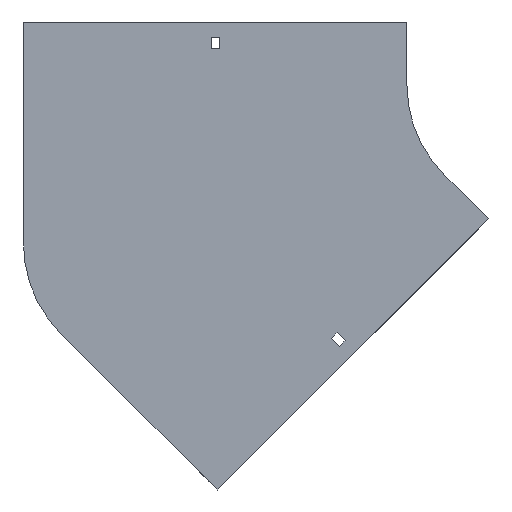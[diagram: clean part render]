
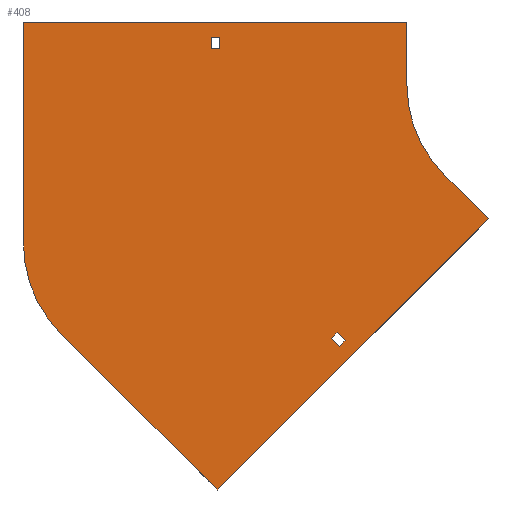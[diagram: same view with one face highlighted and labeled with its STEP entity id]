
A CAD part, front view. The second image highlights one B-rep face of the part: STEP entity #408.
In plain terms, the highlighted planar face has unit normal (0, -1, 0).
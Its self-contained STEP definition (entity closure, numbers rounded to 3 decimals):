
#3 = DIRECTION ( 'NONE',  ( 0., -1., 0. ) ) ;
#5 = EDGE_CURVE ( 'NONE', #1358, #722, #888, .T. ) ;
#14 = EDGE_CURVE ( 'NONE', #1291, #1358, #32, .T. ) ;
#19 = VECTOR ( 'NONE', #1187, 1000. ) ;
#29 = VECTOR ( 'NONE', #126, 1000. ) ;
#32 = LINE ( 'NONE', #1109, #813 ) ;
#54 = ORIENTED_EDGE ( 'NONE', *, *, #622, .F. ) ;
#62 = CARTESIAN_POINT ( 'NONE',  ( -374.711, 0., -196.632 ) ) ;
#80 = DIRECTION ( 'NONE',  ( 1., 0., 0. ) ) ;
#98 = EDGE_CURVE ( 'NONE', #396, #726, #922, .T. ) ;
#100 = CARTESIAN_POINT ( 'NONE',  ( -248.75, 0., 29. ) ) ;
#126 = DIRECTION ( 'NONE',  ( 0., 0., -1. ) ) ;
#127 = LINE ( 'NONE', #227, #821 ) ;
#139 = DIRECTION ( 'NONE',  ( 0., 1., 0. ) ) ;
#146 = AXIS2_PLACEMENT_3D ( 'NONE', #889, #3, #442 ) ;
#148 = ORIENTED_EDGE ( 'NONE', *, *, #98, .F. ) ;
#152 = DIRECTION ( 'NONE',  ( 0., 0., -1. ) ) ;
#170 = EDGE_CURVE ( 'NONE', #726, #501, #746, .T. ) ;
#187 = CARTESIAN_POINT ( 'NONE',  ( -70.711, 0., -70.711 ) ) ;
#196 = CARTESIAN_POINT ( 'NONE',  ( -404., 0., -125.921 ) ) ;
#206 = CARTESIAN_POINT ( 'NONE',  ( -255.25, 0., 38. ) ) ;
#211 = CARTESIAN_POINT ( 'NONE',  ( -100., 0., 50. ) ) ;
#213 = DIRECTION ( 'NONE',  ( -0.707, 0., -0.707 ) ) ;
#218 = EDGE_CURVE ( 'NONE', #501, #1018, #619, .T. ) ;
#227 = CARTESIAN_POINT ( 'NONE',  ( -250.316, 0., -321.026 ) ) ;
#241 = VECTOR ( 'NONE', #952, 1000. ) ;
#243 = CARTESIAN_POINT ( 'NONE',  ( -159.983, 0., -200.995 ) ) ;
#251 = VECTOR ( 'NONE', #677, 1000. ) ;
#253 = DIRECTION ( 'NONE',  ( 0., -1., 0. ) ) ;
#266 = FACE_BOUND ( 'NONE', #1174, .T. ) ;
#274 = FACE_BOUND ( 'NONE', #1089, .T. ) ;
#277 = ORIENTED_EDGE ( 'NONE', *, *, #1115, .F. ) ;
#286 = CARTESIAN_POINT ( 'NONE',  ( -404., 0., 50. ) ) ;
#290 = ORIENTED_EDGE ( 'NONE', *, *, #772, .F. ) ;
#291 = ORIENTED_EDGE ( 'NONE', *, *, #876, .F. ) ;
#299 = VECTOR ( 'NONE', #80, 1000. ) ;
#308 = EDGE_CURVE ( 'NONE', #549, #438, #448, .T. ) ;
#313 = EDGE_CURVE ( 'NONE', #333, #549, #554, .T. ) ;
#314 = AXIS2_PLACEMENT_3D ( 'NONE', #768, #139, #778 ) ;
#333 = VERTEX_POINT ( 'NONE', #433 ) ;
#334 = CARTESIAN_POINT ( 'NONE',  ( -159.983, 0., -200.995 ) ) ;
#387 = PLANE ( 'NONE',  #655 ) ;
#390 = CIRCLE ( 'NONE', #146, 100. ) ;
#396 = VERTEX_POINT ( 'NONE', #62 ) ;
#401 = ORIENTED_EDGE ( 'NONE', *, *, #313, .F. ) ;
#408 = ADVANCED_FACE ( 'NONE', ( #274, #1220, #266 ), #387, .T. ) ;
#426 = CARTESIAN_POINT ( 'NONE',  ( -255.25, 0., 38. ) ) ;
#429 = ORIENTED_EDGE ( 'NONE', *, *, #1173, .F. ) ;
#433 = CARTESIAN_POINT ( 'NONE',  ( -155.387, 0., -196.399 ) ) ;
#437 = CARTESIAN_POINT ( 'NONE',  ( -153.619, 0., -207.359 ) ) ;
#438 = VERTEX_POINT ( 'NONE', #896 ) ;
#442 = DIRECTION ( 'NONE',  ( 0., 0., -1. ) ) ;
#448 = LINE ( 'NONE', #334, #1242 ) ;
#450 = CARTESIAN_POINT ( 'NONE',  ( -155.387, 0., -196.399 ) ) ;
#452 = VECTOR ( 'NONE', #533, 1000. ) ;
#479 = VERTEX_POINT ( 'NONE', #729 ) ;
#501 = VERTEX_POINT ( 'NONE', #286 ) ;
#503 = VERTEX_POINT ( 'NONE', #187 ) ;
#514 = CARTESIAN_POINT ( 'NONE',  ( -404., 0., 50. ) ) ;
#531 = VERTEX_POINT ( 'NONE', #1360 ) ;
#533 = DIRECTION ( 'NONE',  ( 1., 0., 0. ) ) ;
#542 = VECTOR ( 'NONE', #152, 1000. ) ;
#549 = VERTEX_POINT ( 'NONE', #243 ) ;
#554 = LINE ( 'NONE', #676, #19 ) ;
#576 = VERTEX_POINT ( 'NONE', #1303 ) ;
#577 = CARTESIAN_POINT ( 'NONE',  ( -100., 0., 50. ) ) ;
#599 = EDGE_CURVE ( 'NONE', #576, #333, #1221, .T. ) ;
#602 = DIRECTION ( 'NONE',  ( 0., 0., -1. ) ) ;
#617 = ORIENTED_EDGE ( 'NONE', *, *, #801, .T. ) ;
#619 = LINE ( 'NONE', #514, #452 ) ;
#622 = EDGE_CURVE ( 'NONE', #1018, #531, #1004, .T. ) ;
#624 = CARTESIAN_POINT ( 'NONE',  ( -248.75, 0., 29. ) ) ;
#640 = ORIENTED_EDGE ( 'NONE', *, *, #308, .F. ) ;
#655 = AXIS2_PLACEMENT_3D ( 'NONE', #1130, #253, #602 ) ;
#676 = CARTESIAN_POINT ( 'NONE',  ( -159.983, 0., -200.995 ) ) ;
#677 = DIRECTION ( 'NONE',  ( -0.707, 0., 0.707 ) ) ;
#714 = VERTEX_POINT ( 'NONE', #749 ) ;
#722 = VERTEX_POINT ( 'NONE', #206 ) ;
#726 = VERTEX_POINT ( 'NONE', #196 ) ;
#729 = CARTESIAN_POINT ( 'NONE',  ( -248.75, 0., 38. ) ) ;
#746 = LINE ( 'NONE', #960, #1063 ) ;
#749 = CARTESIAN_POINT ( 'NONE',  ( -35.355, 0., -106.066 ) ) ;
#751 = ORIENTED_EDGE ( 'NONE', *, *, #599, .F. ) ;
#768 = CARTESIAN_POINT ( 'NONE',  ( -304., 0., -125.921 ) ) ;
#772 = EDGE_CURVE ( 'NONE', #714, #802, #1184, .T. ) ;
#773 = LINE ( 'NONE', #100, #29 ) ;
#778 = DIRECTION ( 'NONE',  ( 0., 0., 1. ) ) ;
#801 = EDGE_CURVE ( 'NONE', #722, #479, #1401, .T. ) ;
#802 = VERTEX_POINT ( 'NONE', #1054 ) ;
#813 = VECTOR ( 'NONE', #984, 1000. ) ;
#821 = VECTOR ( 'NONE', #886, 1000. ) ;
#841 = VECTOR ( 'NONE', #1213, 1000. ) ;
#845 = DIRECTION ( 'NONE',  ( 0., 0., 1. ) ) ;
#876 = EDGE_CURVE ( 'NONE', #531, #503, #390, .T. ) ;
#886 = DIRECTION ( 'NONE',  ( -0.707, 0., 0.707 ) ) ;
#888 = LINE ( 'NONE', #968, #841 ) ;
#889 = CARTESIAN_POINT ( 'NONE',  ( 0., 0., 0. ) ) ;
#896 = CARTESIAN_POINT ( 'NONE',  ( -153.619, 0., -207.359 ) ) ;
#922 = CIRCLE ( 'NONE', #314, 100. ) ;
#924 = ORIENTED_EDGE ( 'NONE', *, *, #14, .T. ) ;
#952 = DIRECTION ( 'NONE',  ( 0.707, 0., -0.707 ) ) ;
#960 = CARTESIAN_POINT ( 'NONE',  ( -404., 0., -125.921 ) ) ;
#968 = CARTESIAN_POINT ( 'NONE',  ( -255.25, 0., 29. ) ) ;
#984 = DIRECTION ( 'NONE',  ( -1., 0., 0. ) ) ;
#986 = ORIENTED_EDGE ( 'NONE', *, *, #218, .F. ) ;
#1004 = LINE ( 'NONE', #577, #542 ) ;
#1010 = CARTESIAN_POINT ( 'NONE',  ( -255.25, 0., 29. ) ) ;
#1018 = VERTEX_POINT ( 'NONE', #211 ) ;
#1020 = VECTOR ( 'NONE', #1300, 1000. ) ;
#1054 = CARTESIAN_POINT ( 'NONE',  ( -250.316, 0., -321.026 ) ) ;
#1063 = VECTOR ( 'NONE', #845, 1000. ) ;
#1067 = CARTESIAN_POINT ( 'NONE',  ( -70.711, 0., -70.711 ) ) ;
#1073 = EDGE_CURVE ( 'NONE', #802, #396, #127, .T. ) ;
#1084 = LINE ( 'NONE', #437, #1020 ) ;
#1089 = EDGE_LOOP ( 'NONE', ( #1128, #617, #1269, #924 ) ) ;
#1090 = LINE ( 'NONE', #1067, #241 ) ;
#1109 = CARTESIAN_POINT ( 'NONE',  ( -255.25, 0., 29. ) ) ;
#1115 = EDGE_CURVE ( 'NONE', #438, #576, #1084, .T. ) ;
#1128 = ORIENTED_EDGE ( 'NONE', *, *, #5, .T. ) ;
#1130 = CARTESIAN_POINT ( 'NONE',  ( 0., 0., 0. ) ) ;
#1173 = EDGE_CURVE ( 'NONE', #503, #714, #1090, .T. ) ;
#1174 = EDGE_LOOP ( 'NONE', ( #277, #640, #401, #751 ) ) ;
#1184 = LINE ( 'NONE', #1389, #1337 ) ;
#1187 = DIRECTION ( 'NONE',  ( -0.707, 0., -0.707 ) ) ;
#1204 = EDGE_CURVE ( 'NONE', #479, #1291, #773, .T. ) ;
#1213 = DIRECTION ( 'NONE',  ( 0., 0., 1. ) ) ;
#1220 = FACE_OUTER_BOUND ( 'NONE', #1342, .T. ) ;
#1221 = LINE ( 'NONE', #450, #251 ) ;
#1242 = VECTOR ( 'NONE', #1302, 1000. ) ;
#1269 = ORIENTED_EDGE ( 'NONE', *, *, #1204, .T. ) ;
#1291 = VERTEX_POINT ( 'NONE', #624 ) ;
#1300 = DIRECTION ( 'NONE',  ( 0.707, 0., 0.707 ) ) ;
#1302 = DIRECTION ( 'NONE',  ( 0.707, 0., -0.707 ) ) ;
#1303 = CARTESIAN_POINT ( 'NONE',  ( -149.023, 0., -202.763 ) ) ;
#1337 = VECTOR ( 'NONE', #213, 1000. ) ;
#1342 = EDGE_LOOP ( 'NONE', ( #986, #1391, #148, #1404, #290, #429, #291, #54 ) ) ;
#1358 = VERTEX_POINT ( 'NONE', #1010 ) ;
#1360 = CARTESIAN_POINT ( 'NONE',  ( -100., 0., 0. ) ) ;
#1389 = CARTESIAN_POINT ( 'NONE',  ( -35.355, 0., -106.066 ) ) ;
#1391 = ORIENTED_EDGE ( 'NONE', *, *, #170, .F. ) ;
#1401 = LINE ( 'NONE', #426, #299 ) ;
#1404 = ORIENTED_EDGE ( 'NONE', *, *, #1073, .F. ) ;
